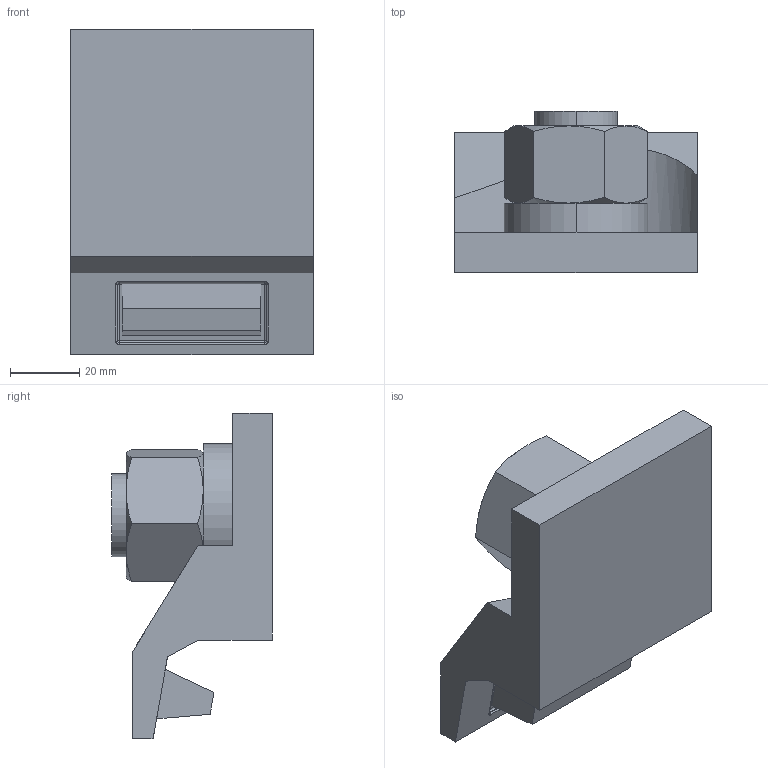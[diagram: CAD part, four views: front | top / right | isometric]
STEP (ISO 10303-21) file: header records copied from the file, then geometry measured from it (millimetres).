
FILE_DESCRIPTION (( 'STEP AP214' ), '1' );
FILE_NAME ('4124-15-40.STEP', '2020-10-14T09:58:10', ( '' ), ( '' ), 'SwSTEP 2.0', 'SolidWorks 2020', '' );
FILE_SCHEMA (( 'AUTOMOTIVE_DESIGN' ));
Length unit declared in the file: millimetre
Products named in the file (5): hex nut gradec_bsi_BS EN 24034 - M24 - N; 4124-15-40; 40mm Nose; Washer m24
Assembly tree (4 placements, depth 2):
  4124-15-40
    4124-15-40
    Washer m24
    hex nut gradec_bsi_BS EN 24034 - M24 - N
    40mm Nose
Bounding box: 70 x 46.5 x 94 mm (x, y, z)
Volume: 134402.1 mm3; surface area: 35600.7 mm2
Topology: 4 solids, 4 shells, 309 faces, 777 edges, 498 vertices
Faces by surface type: plane 198, bspline 50, cylinder 32, cone 16, sphere 9, torus 4
Entity records: 13226 total; most frequent: CARTESIAN_POINT 6121, ORIENTED_EDGE 1538, DIRECTION 1203, EDGE_CURVE 769, VECTOR 505, LINE 505, VERTEX_POINT 496, AXIS2_PLACEMENT_3D 349
